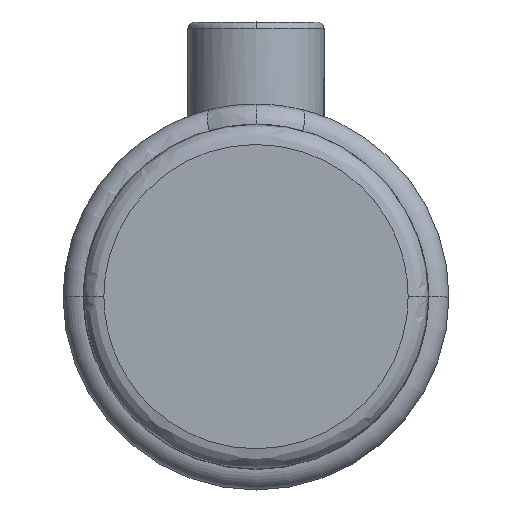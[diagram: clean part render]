
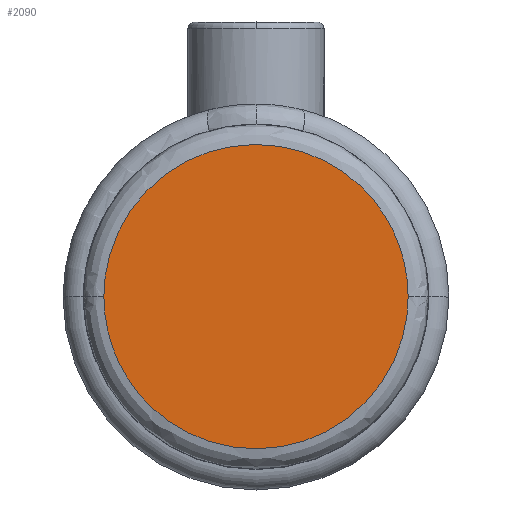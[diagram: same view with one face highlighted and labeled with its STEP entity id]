
A CAD part, top view. The second image highlights one B-rep face of the part: STEP entity #2090.
In plain terms, the highlighted planar face has unit normal (0, 0, 1).
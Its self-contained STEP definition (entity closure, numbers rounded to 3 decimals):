
#618 = EDGE_LOOP ( 'NONE', ( #5057, #4990 ) ) ;
#673 = CARTESIAN_POINT ( 'NONE',  ( -22.35, 0., 38. ) ) ;
#854 =( BOUNDED_CURVE ( )  B_SPLINE_CURVE ( 3, ( #3570, #1031, #6106, #2322 ),
 .UNSPECIFIED., .F., .F. ) 
 B_SPLINE_CURVE_WITH_KNOTS ( ( 4, 4 ),
 ( 0.75, 1.25 ),
 .UNSPECIFIED. ) 
 CURVE ( )  GEOMETRIC_REPRESENTATION_ITEM ( )  RATIONAL_B_SPLINE_CURVE ( ( 1., 0.333, 0.333, 1. ) ) 
 REPRESENTATION_ITEM ( '' )  );
#1010 = CARTESIAN_POINT ( 'NONE',  ( 22.35, 0., 38. ) ) ;
#1031 = CARTESIAN_POINT ( 'NONE',  ( -22.35, 44.7, 38. ) ) ;
#1218 = AXIS2_PLACEMENT_3D ( 'NONE', #4808, #5805, #3269 ) ;
#2027 = EDGE_CURVE ( 'NONE', #3696, #3814, #4266, .T. ) ;
#2084 = PLANE ( 'NONE',  #1218 ) ;
#2090 = ADVANCED_FACE ( 'NONE', ( #6816 ), #2084, .T. ) ;
#2322 = CARTESIAN_POINT ( 'NONE',  ( 22.35, 0., 38. ) ) ;
#3269 = DIRECTION ( 'NONE',  ( 0., -1., 0. ) ) ;
#3296 = CARTESIAN_POINT ( 'NONE',  ( 22.35, 0., 38. ) ) ;
#3570 = CARTESIAN_POINT ( 'NONE',  ( -22.35, 0., 38. ) ) ;
#3696 = VERTEX_POINT ( 'NONE', #1010 ) ;
#3814 = VERTEX_POINT ( 'NONE', #5237 ) ;
#4266 =( BOUNDED_CURVE ( )  B_SPLINE_CURVE ( 3, ( #3296, #7080, #6587, #673 ),
 .UNSPECIFIED., .F., .T. ) 
 B_SPLINE_CURVE_WITH_KNOTS ( ( 4, 4 ),
 ( 0.25, 0.75 ),
 .UNSPECIFIED. ) 
 CURVE ( )  GEOMETRIC_REPRESENTATION_ITEM ( )  RATIONAL_B_SPLINE_CURVE ( ( 1., 0.333, 0.333, 1. ) ) 
 REPRESENTATION_ITEM ( '' )  );
#4808 = CARTESIAN_POINT ( 'NONE',  ( 0., 12.675, 38. ) ) ;
#4990 = ORIENTED_EDGE ( 'NONE', *, *, #8066, .F. ) ;
#5057 = ORIENTED_EDGE ( 'NONE', *, *, #2027, .F. ) ;
#5237 = CARTESIAN_POINT ( 'NONE',  ( -22.35, 0., 38. ) ) ;
#5805 = DIRECTION ( 'NONE',  ( 0., 0., 1. ) ) ;
#6106 = CARTESIAN_POINT ( 'NONE',  ( 22.35, 44.7, 38. ) ) ;
#6587 = CARTESIAN_POINT ( 'NONE',  ( -22.35, -44.7, 38. ) ) ;
#6816 = FACE_OUTER_BOUND ( 'NONE', #618, .T. ) ;
#7080 = CARTESIAN_POINT ( 'NONE',  ( 22.35, -44.7, 38. ) ) ;
#8066 = EDGE_CURVE ( 'NONE', #3814, #3696, #854, .T. ) ;
